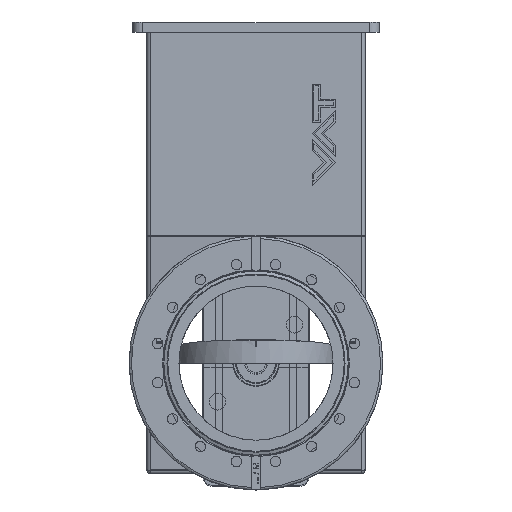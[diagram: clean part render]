
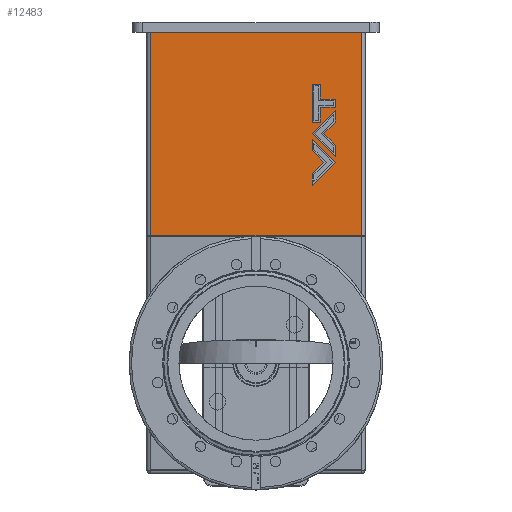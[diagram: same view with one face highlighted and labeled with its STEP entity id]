
A CAD part, front view. The second image highlights one B-rep face of the part: STEP entity #12483.
In plain terms, the highlighted planar face has unit normal (0, -1, 0).
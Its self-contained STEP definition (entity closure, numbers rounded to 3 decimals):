
#6918=PLANE('',#28413);
#7546=FACE_BOUND('',#15067,.T.);
#7547=FACE_BOUND('',#15068,.T.);
#7548=FACE_BOUND('',#15069,.T.);
#7549=FACE_BOUND('',#15070,.T.);
#9311=LINE('',#41802,#11142);
#9312=LINE('',#41805,#11143);
#9313=LINE('',#41807,#11144);
#9314=LINE('',#41809,#11145);
#9315=LINE('',#41811,#11146);
#9316=LINE('',#41813,#11147);
#9317=LINE('',#41814,#11148);
#9318=LINE('',#41817,#11149);
#9319=LINE('',#41819,#11150);
#9320=LINE('',#41821,#11151);
#9321=LINE('',#41822,#11152);
#9322=LINE('',#41825,#11153);
#9323=LINE('',#41827,#11154);
#9324=LINE('',#41829,#11155);
#9325=LINE('',#41831,#11156);
#9326=LINE('',#41833,#11157);
#9327=LINE('',#41835,#11158);
#9328=LINE('',#41837,#11159);
#9329=LINE('',#41838,#11160);
#9330=LINE('',#41841,#11161);
#9331=LINE('',#41843,#11162);
#9332=LINE('',#41845,#11163);
#9333=LINE('',#41847,#11164);
#9334=LINE('',#41849,#11165);
#11142=VECTOR('',#33379,1.);
#11143=VECTOR('',#33380,1.);
#11144=VECTOR('',#33381,1.);
#11145=VECTOR('',#33382,1.);
#11146=VECTOR('',#33383,1.);
#11147=VECTOR('',#33384,1.);
#11148=VECTOR('',#33385,1.);
#11149=VECTOR('',#33386,1.);
#11150=VECTOR('',#33387,1.);
#11151=VECTOR('',#33388,1.);
#11152=VECTOR('',#33389,1.);
#11153=VECTOR('',#33390,1.);
#11154=VECTOR('',#33391,1.);
#11155=VECTOR('',#33392,1.);
#11156=VECTOR('',#33393,1.);
#11157=VECTOR('',#33394,1.);
#11158=VECTOR('',#33395,1.);
#11159=VECTOR('',#33396,1.);
#11160=VECTOR('',#33397,1.);
#11161=VECTOR('',#33398,1.);
#11162=VECTOR('',#33399,1.);
#11163=VECTOR('',#33400,1.);
#11164=VECTOR('',#33401,1.);
#11165=VECTOR('',#33402,1.);
#12483=ADVANCED_FACE('',(#7546,#7547,#7548,#7549),#6918,.T.);
#15067=EDGE_LOOP('',(#20070,#20071,#20072,#20073,#20074,#20075));
#15068=EDGE_LOOP('',(#20076,#20077,#20078,#20079));
#15069=EDGE_LOOP('',(#20080,#20081,#20082,#20083,#20084,#20085,#20086,#20087));
#15070=EDGE_LOOP('',(#20088,#20089,#20090,#20091,#20092,#20093));
#20070=ORIENTED_EDGE('',*,*,#25508,.F.);
#20071=ORIENTED_EDGE('',*,*,#25509,.F.);
#20072=ORIENTED_EDGE('',*,*,#25510,.F.);
#20073=ORIENTED_EDGE('',*,*,#25511,.F.);
#20074=ORIENTED_EDGE('',*,*,#25512,.F.);
#20075=ORIENTED_EDGE('',*,*,#25513,.F.);
#20076=ORIENTED_EDGE('',*,*,#25514,.T.);
#20077=ORIENTED_EDGE('',*,*,#25515,.T.);
#20078=ORIENTED_EDGE('',*,*,#25516,.T.);
#20079=ORIENTED_EDGE('',*,*,#25517,.T.);
#20080=ORIENTED_EDGE('',*,*,#25518,.F.);
#20081=ORIENTED_EDGE('',*,*,#25519,.F.);
#20082=ORIENTED_EDGE('',*,*,#25520,.F.);
#20083=ORIENTED_EDGE('',*,*,#25521,.F.);
#20084=ORIENTED_EDGE('',*,*,#25522,.F.);
#20085=ORIENTED_EDGE('',*,*,#25523,.F.);
#20086=ORIENTED_EDGE('',*,*,#25524,.F.);
#20087=ORIENTED_EDGE('',*,*,#25525,.F.);
#20088=ORIENTED_EDGE('',*,*,#25526,.F.);
#20089=ORIENTED_EDGE('',*,*,#25527,.F.);
#20090=ORIENTED_EDGE('',*,*,#25528,.F.);
#20091=ORIENTED_EDGE('',*,*,#25529,.F.);
#20092=ORIENTED_EDGE('',*,*,#25530,.F.);
#20093=ORIENTED_EDGE('',*,*,#25531,.F.);
#22784=VERTEX_POINT('',#41803);
#22785=VERTEX_POINT('',#41804);
#22786=VERTEX_POINT('',#41806);
#22787=VERTEX_POINT('',#41808);
#22788=VERTEX_POINT('',#41810);
#22789=VERTEX_POINT('',#41812);
#22790=VERTEX_POINT('',#41815);
#22791=VERTEX_POINT('',#41816);
#22792=VERTEX_POINT('',#41818);
#22793=VERTEX_POINT('',#41820);
#22794=VERTEX_POINT('',#41823);
#22795=VERTEX_POINT('',#41824);
#22796=VERTEX_POINT('',#41826);
#22797=VERTEX_POINT('',#41828);
#22798=VERTEX_POINT('',#41830);
#22799=VERTEX_POINT('',#41832);
#22800=VERTEX_POINT('',#41834);
#22801=VERTEX_POINT('',#41836);
#22802=VERTEX_POINT('',#41839);
#22803=VERTEX_POINT('',#41840);
#22804=VERTEX_POINT('',#41842);
#22805=VERTEX_POINT('',#41844);
#22806=VERTEX_POINT('',#41846);
#22807=VERTEX_POINT('',#41848);
#25508=EDGE_CURVE('',#22784,#22785,#9311,.T.);
#25509=EDGE_CURVE('',#22786,#22784,#9312,.T.);
#25510=EDGE_CURVE('',#22787,#22786,#9313,.T.);
#25511=EDGE_CURVE('',#22788,#22787,#9314,.T.);
#25512=EDGE_CURVE('',#22789,#22788,#9315,.T.);
#25513=EDGE_CURVE('',#22785,#22789,#9316,.T.);
#25514=EDGE_CURVE('',#22790,#22791,#9317,.T.);
#25515=EDGE_CURVE('',#22791,#22792,#9318,.T.);
#25516=EDGE_CURVE('',#22792,#22793,#9319,.T.);
#25517=EDGE_CURVE('',#22793,#22790,#9320,.T.);
#25518=EDGE_CURVE('',#22794,#22795,#9321,.T.);
#25519=EDGE_CURVE('',#22796,#22794,#9322,.T.);
#25520=EDGE_CURVE('',#22797,#22796,#9323,.T.);
#25521=EDGE_CURVE('',#22798,#22797,#9324,.T.);
#25522=EDGE_CURVE('',#22799,#22798,#9325,.T.);
#25523=EDGE_CURVE('',#22800,#22799,#9326,.T.);
#25524=EDGE_CURVE('',#22801,#22800,#9327,.T.);
#25525=EDGE_CURVE('',#22795,#22801,#9328,.T.);
#25526=EDGE_CURVE('',#22802,#22803,#9329,.T.);
#25527=EDGE_CURVE('',#22804,#22802,#9330,.T.);
#25528=EDGE_CURVE('',#22805,#22804,#9331,.T.);
#25529=EDGE_CURVE('',#22806,#22805,#9332,.T.);
#25530=EDGE_CURVE('',#22807,#22806,#9333,.T.);
#25531=EDGE_CURVE('',#22803,#22807,#9334,.T.);
#28413=AXIS2_PLACEMENT_3D('',#41850,#33403,#33404);
#33379=DIRECTION('',(0.,0.,-1.));
#33380=DIRECTION('',(-0.707,0.,-0.707));
#33381=DIRECTION('',(0.707,0.,-0.707));
#33382=DIRECTION('',(0.,0.,-1.));
#33383=DIRECTION('',(-0.707,0.,0.707));
#33384=DIRECTION('',(0.707,0.,0.707));
#33385=DIRECTION('',(-1.,0.,0.));
#33386=DIRECTION('',(0.,0.,-1.));
#33387=DIRECTION('',(1.,0.,0.));
#33388=DIRECTION('',(0.,0.,1.));
#33389=DIRECTION('',(0.,0.,-1.));
#33390=DIRECTION('',(-1.,0.,0.));
#33391=DIRECTION('',(0.,0.,1.));
#33392=DIRECTION('',(-1.,0.,0.));
#33393=DIRECTION('',(0.,0.,1.));
#33394=DIRECTION('',(1.,0.,0.));
#33395=DIRECTION('',(0.,0.,1.));
#33396=DIRECTION('',(1.,0.,0.));
#33397=DIRECTION('',(0.707,0.,-0.707));
#33398=DIRECTION('',(-0.707,0.,-0.707));
#33399=DIRECTION('',(0.,0.,1.));
#33400=DIRECTION('',(0.707,0.,0.707));
#33401=DIRECTION('',(-0.707,0.,0.707));
#33402=DIRECTION('',(0.,0.,1.));
#33403=DIRECTION('',(0.,-1.,0.));
#33404=DIRECTION('',(1.,0.,0.));
#41802=CARTESIAN_POINT('',(36.5,-21.5,122.963));
#41803=CARTESIAN_POINT('',(36.5,-21.5,122.963));
#41804=CARTESIAN_POINT('',(36.5,-21.5,115.464));
#41805=CARTESIAN_POINT('',(44.001,-21.5,130.464));
#41806=CARTESIAN_POINT('',(44.001,-21.5,130.464));
#41807=CARTESIAN_POINT('',(36.5,-21.5,137.966));
#41808=CARTESIAN_POINT('',(36.5,-21.5,137.966));
#41809=CARTESIAN_POINT('',(36.5,-21.5,145.464));
#41810=CARTESIAN_POINT('',(36.5,-21.5,145.464));
#41811=CARTESIAN_POINT('',(51.5,-21.5,130.464));
#41812=CARTESIAN_POINT('',(51.5,-21.5,130.464));
#41813=CARTESIAN_POINT('',(36.5,-21.5,115.464));
#41814=CARTESIAN_POINT('',(68.925,-21.5,215.));
#41815=CARTESIAN_POINT('',(68.225,-21.5,215.));
#41816=CARTESIAN_POINT('',(-68.225,-21.5,215.));
#41817=CARTESIAN_POINT('',(-68.225,-21.5,82.388));
#41818=CARTESIAN_POINT('',(-68.225,-21.5,82.606));
#41819=CARTESIAN_POINT('',(68.925,-21.5,82.606));
#41820=CARTESIAN_POINT('',(68.225,-21.5,82.606));
#41821=CARTESIAN_POINT('',(68.225,-21.5,82.388));
#41822=CARTESIAN_POINT('',(36.5,-21.5,181.121));
#41823=CARTESIAN_POINT('',(36.5,-21.5,181.121));
#41824=CARTESIAN_POINT('',(36.5,-21.5,156.424));
#41825=CARTESIAN_POINT('',(41.803,-21.5,181.121));
#41826=CARTESIAN_POINT('',(41.803,-21.5,181.121));
#41827=CARTESIAN_POINT('',(41.803,-21.5,171.424));
#41828=CARTESIAN_POINT('',(41.803,-21.5,171.424));
#41829=CARTESIAN_POINT('',(51.5,-21.5,171.424));
#41830=CARTESIAN_POINT('',(51.5,-21.5,171.424));
#41831=CARTESIAN_POINT('',(51.5,-21.5,166.121));
#41832=CARTESIAN_POINT('',(51.5,-21.5,166.121));
#41833=CARTESIAN_POINT('',(41.803,-21.5,166.121));
#41834=CARTESIAN_POINT('',(41.803,-21.5,166.121));
#41835=CARTESIAN_POINT('',(41.803,-21.5,156.424));
#41836=CARTESIAN_POINT('',(41.803,-21.5,156.424));
#41837=CARTESIAN_POINT('',(36.5,-21.5,156.424));
#41838=CARTESIAN_POINT('',(36.5,-21.5,149.));
#41839=CARTESIAN_POINT('',(36.5,-21.5,149.));
#41840=CARTESIAN_POINT('',(51.5,-21.5,134.));
#41841=CARTESIAN_POINT('',(51.5,-21.5,164.));
#41842=CARTESIAN_POINT('',(51.5,-21.5,164.));
#41843=CARTESIAN_POINT('',(51.5,-21.5,156.501));
#41844=CARTESIAN_POINT('',(51.5,-21.5,156.501));
#41845=CARTESIAN_POINT('',(43.999,-21.5,149.));
#41846=CARTESIAN_POINT('',(43.999,-21.5,149.));
#41847=CARTESIAN_POINT('',(51.5,-21.5,141.499));
#41848=CARTESIAN_POINT('',(51.5,-21.5,141.499));
#41849=CARTESIAN_POINT('',(51.5,-21.5,134.));
#41850=CARTESIAN_POINT('',(68.925,-21.5,82.388));
